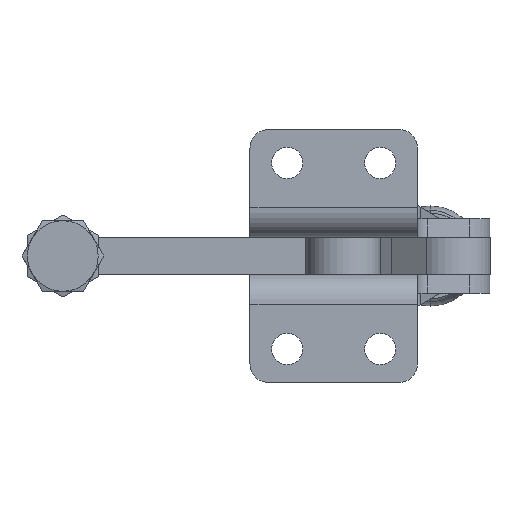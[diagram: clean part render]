
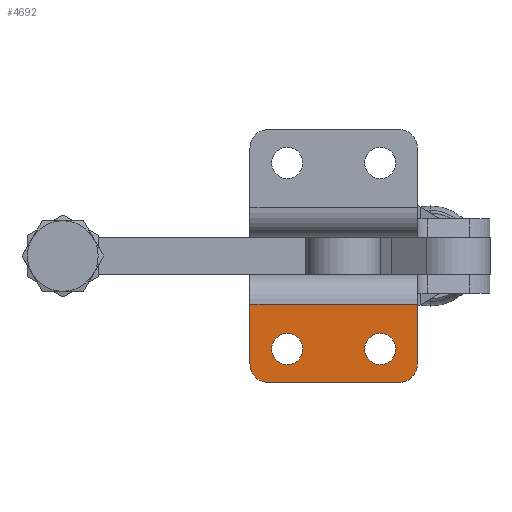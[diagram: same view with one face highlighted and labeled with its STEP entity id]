
A CAD part, front view. The second image highlights one B-rep face of the part: STEP entity #4692.
In plain terms, the highlighted planar face has unit normal (0, -1, 0).
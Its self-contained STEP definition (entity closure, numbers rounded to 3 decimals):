
#1644 = VERTEX_POINT( '', #4775 );
#1828 = VERTEX_POINT( '', #4978 );
#1984 = EDGE_CURVE( '', #1828, #3402, #5147, .T. );
#2402 = EDGE_CURVE( '', #1828, #3662, #5611, .T. );
#2582 = EDGE_CURVE( '', #2844, #4166, #5814, .T. );
#2844 = VERTEX_POINT( '', #6110 );
#3104 = VERTEX_POINT( '', #6401 );
#3402 = VERTEX_POINT( '', #6738 );
#3426 = EDGE_CURVE( '', #1644, #4682, #6766, .T. );
#3510 = VERTEX_POINT( '', #6864 );
#3530 = EDGE_CURVE( '', #4682, #1644, #6886, .T. );
#3612 = EDGE_CURVE( '', #4166, #3104, #6982, .T. );
#3662 = VERTEX_POINT( '', #7034 );
#3678 = EDGE_CURVE( '', #3104, #3662, #7050, .T. );
#4126 = EDGE_CURVE( '', #4320, #3510, #7555, .T. );
#4166 = VERTEX_POINT( '', #7598 );
#4168 = EDGE_CURVE( '', #3510, #4320, #7600, .T. );
#4184 = EDGE_CURVE( '', #3402, #2844, #7618, .T. );
#4320 = VERTEX_POINT( '', #7766 );
#4682 = VERTEX_POINT( '', #8173 );
#4692 = ADVANCED_FACE( '', ( #8183, #8184, #8185 ), #8186, .T. );
#4775 = CARTESIAN_POINT( '', ( 30.8, 0., -25. ) );
#4978 = CARTESIAN_POINT( '', ( 0., 0., -13. ) );
#5147 = LINE( '', #8867, #8868 );
#5611 = LINE( '', #9596, #9597 );
#5814 = LINE( '', #9892, #9893 );
#6110 = CARTESIAN_POINT( '', ( 5., 0., -34. ) );
#6401 = CARTESIAN_POINT( '', ( 45., 0., -29. ) );
#6738 = CARTESIAN_POINT( '', ( 0., 0., -29. ) );
#6766 = CIRCLE( '', #11335, 4.2 );
#6864 = CARTESIAN_POINT( '', ( 5.8, 0., -25. ) );
#6886 = CIRCLE( '', #11490, 4.2 );
#6982 = CIRCLE( '', #11613, 5. );
#7034 = CARTESIAN_POINT( '', ( 45., 0., -13. ) );
#7050 = LINE( '', #11722, #11723 );
#7555 = CIRCLE( '', #12468, 4.2 );
#7598 = CARTESIAN_POINT( '', ( 40., 0., -34. ) );
#7600 = CIRCLE( '', #12544, 4.2 );
#7618 = CIRCLE( '', #12571, 5. );
#7766 = CARTESIAN_POINT( '', ( 14.2, 0., -25. ) );
#8173 = CARTESIAN_POINT( '', ( 39.2, 0., -25. ) );
#8183 = FACE_BOUND( '', #13447, .T. );
#8184 = FACE_BOUND( '', #13448, .T. );
#8185 = FACE_OUTER_BOUND( '', #13449, .T. );
#8186 = PLANE( '', #13450 );
#8867 = CARTESIAN_POINT( '', ( 0., 0., -13. ) );
#8868 = VECTOR( '', #13936, 1. );
#9596 = CARTESIAN_POINT( '', ( 0., 0., -13. ) );
#9597 = VECTOR( '', #14474, 1. );
#9892 = CARTESIAN_POINT( '', ( 0., 0., -34. ) );
#9893 = VECTOR( '', #14717, 1. );
#11335 = AXIS2_PLACEMENT_3D( '', #15926, #15927, #15928 );
#11490 = AXIS2_PLACEMENT_3D( '', #16090, #16091, #16092 );
#11613 = AXIS2_PLACEMENT_3D( '', #16237, #16238, #16239 );
#11722 = CARTESIAN_POINT( '', ( 45., 0., -13. ) );
#11723 = VECTOR( '', #16290, 1. );
#12468 = AXIS2_PLACEMENT_3D( '', #16914, #16915, #16916 );
#12544 = AXIS2_PLACEMENT_3D( '', #16956, #16957, #16958 );
#12571 = AXIS2_PLACEMENT_3D( '', #16986, #16987, #16988 );
#13447 = EDGE_LOOP( '', ( #17609, #17610 ) );
#13448 = EDGE_LOOP( '', ( #17611, #17612 ) );
#13449 = EDGE_LOOP( '', ( #17613, #17614, #17615, #17616, #17617, #17618 ) );
#13450 = AXIS2_PLACEMENT_3D( '', #17619, #17620, #17621 );
#13936 = DIRECTION( '', ( 0., 0., -1. ) );
#14474 = DIRECTION( '', ( 1., 0., 0. ) );
#14717 = DIRECTION( '', ( 1., 0., 0. ) );
#15926 = CARTESIAN_POINT( '', ( 35., 0., -25. ) );
#15927 = DIRECTION( '', ( 0., 1., 0. ) );
#15928 = DIRECTION( '', ( 1., 0., 0. ) );
#16090 = CARTESIAN_POINT( '', ( 35., 0., -25. ) );
#16091 = DIRECTION( '', ( 0., 1., 0. ) );
#16092 = DIRECTION( '', ( 1., 0., 0. ) );
#16237 = CARTESIAN_POINT( '', ( 40., 0., -29. ) );
#16238 = DIRECTION( '', ( 0., -1., 0. ) );
#16239 = DIRECTION( '', ( 1., 0., 0. ) );
#16290 = DIRECTION( '', ( 0., 0., 1. ) );
#16914 = CARTESIAN_POINT( '', ( 10., 0., -25. ) );
#16915 = DIRECTION( '', ( 0., 1., 0. ) );
#16916 = DIRECTION( '', ( 1., 0., 0. ) );
#16956 = CARTESIAN_POINT( '', ( 10., 0., -25. ) );
#16957 = DIRECTION( '', ( 0., 1., 0. ) );
#16958 = DIRECTION( '', ( 1., 0., 0. ) );
#16986 = CARTESIAN_POINT( '', ( 5., 0., -29. ) );
#16987 = DIRECTION( '', ( 0., -1., 0. ) );
#16988 = DIRECTION( '', ( 0., 0., -1. ) );
#17609 = ORIENTED_EDGE( '', *, *, #3530, .T. );
#17610 = ORIENTED_EDGE( '', *, *, #3426, .T. );
#17611 = ORIENTED_EDGE( '', *, *, #4126, .T. );
#17612 = ORIENTED_EDGE( '', *, *, #4168, .T. );
#17613 = ORIENTED_EDGE( '', *, *, #4184, .T. );
#17614 = ORIENTED_EDGE( '', *, *, #2582, .T. );
#17615 = ORIENTED_EDGE( '', *, *, #3612, .T. );
#17616 = ORIENTED_EDGE( '', *, *, #3678, .T. );
#17617 = ORIENTED_EDGE( '', *, *, #2402, .F. );
#17618 = ORIENTED_EDGE( '', *, *, #1984, .T. );
#17619 = CARTESIAN_POINT( '', ( 0., 0., -34. ) );
#17620 = DIRECTION( '', ( 0., -1., 0. ) );
#17621 = DIRECTION( '', ( 0., 0., -1. ) );
